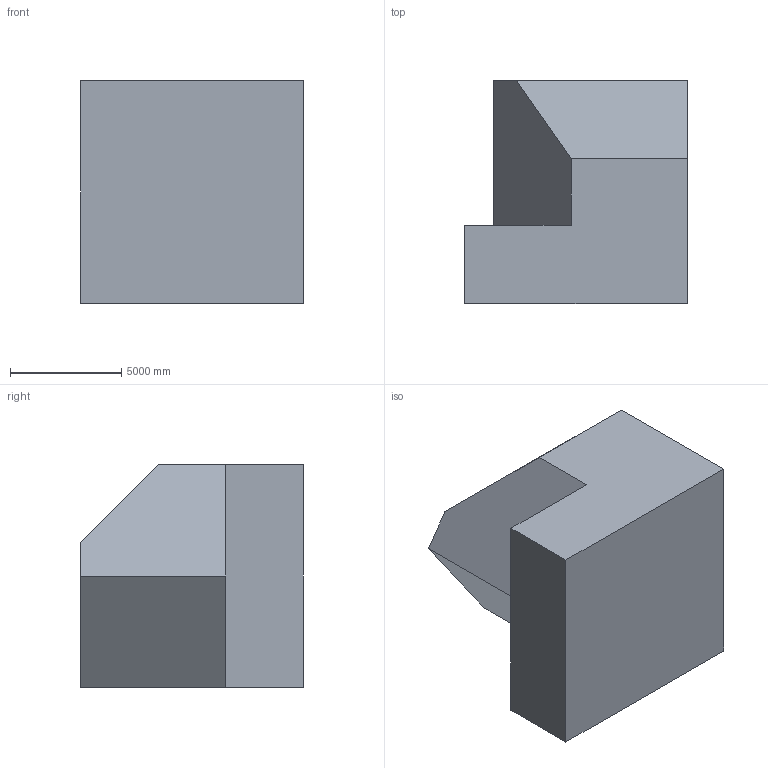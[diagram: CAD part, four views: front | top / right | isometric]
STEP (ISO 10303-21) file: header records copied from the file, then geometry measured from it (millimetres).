
FILE_DESCRIPTION (( 'STEP AP203' ), '1' );
FILE_NAME ('144.STEP', '2022-07-28T13:43:44', ( 'user' ), ( '' ), 'SwSTEP 2.0', 'SolidWorks 2021', '' );
FILE_SCHEMA (( 'CONFIG_CONTROL_DESIGN' ));
Length unit declared in the file: centimetre
Products named in the file (1): 144
Bounding box: 10000 x 10000 x 10000 mm (x, y, z)
Volume: 765559490831.3 mm3; surface area: 529513654.4 mm2
Topology: 1 solids, 1 shells, 10 faces, 24 edges, 16 vertices
Faces by surface type: plane 10
Entity records: 365 total; most frequent: CARTESIAN_POINT 51, ORIENTED_EDGE 48, DIRECTION 46, LINE 24, VECTOR 24, EDGE_CURVE 24, VERTEX_POINT 16, AXIS2_PLACEMENT_3D 11
